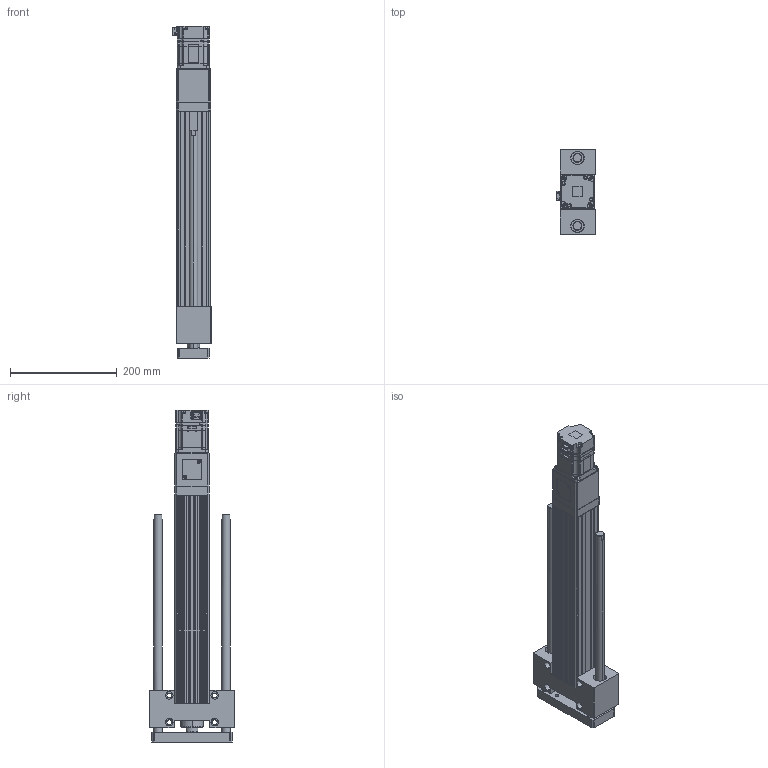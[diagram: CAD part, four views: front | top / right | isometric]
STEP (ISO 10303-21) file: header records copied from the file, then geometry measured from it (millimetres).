
FILE_DESCRIPTION (( 'STEP AP203' ), '1' );
FILE_NAME ('ANS065-HS300-05(10)-W20.STEP', '2019-03-01T04:26:38', ( 'user' ), ( '' ), 'SwSTEP 2.0', 'SolidWorks 2013', '' );
FILE_SCHEMA (( 'CONFIG_CONTROL_DESIGN' ));
Length unit declared in the file: millimetre
Products named in the file (4): ANS065 ROD ST300 G; sgmjv_02a_a21; ANS065-HS300-05(10)-W20; ANS065 HS300 VER2
Assembly tree (3 placements, depth 2):
  ANS065-HS300-05(10)-W20
    ANS065 HS300 VER2
    ANS065 ROD ST300 G
    sgmjv_02a_a21
Bounding box: 72.3 x 160 x 620.6 mm (x, y, z)
Volume: 2175049.3 mm3; surface area: 485489.5 mm2
Topology: 3 solids, 7 shells, 1237 faces, 3245 edges, 2091 vertices
Faces by surface type: plane 697, cylinder 430, cone 110
Entity records: 38305 total; most frequent: CARTESIAN_POINT 6793, DIRECTION 6569, ORIENTED_EDGE 6434, EDGE_CURVE 3217, VECTOR 2207, LINE 2207, AXIS2_PLACEMENT_3D 2181, VERTEX_POINT 2091
